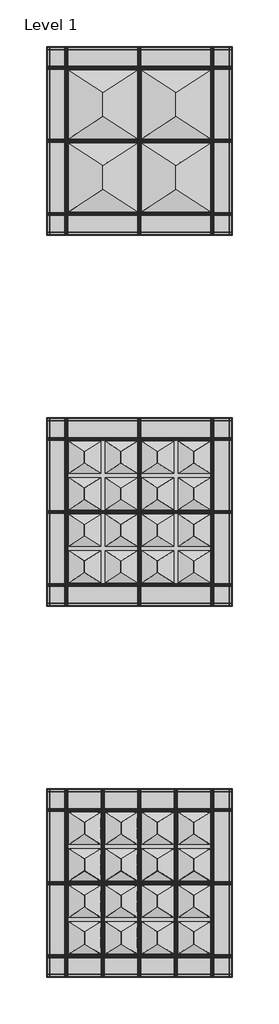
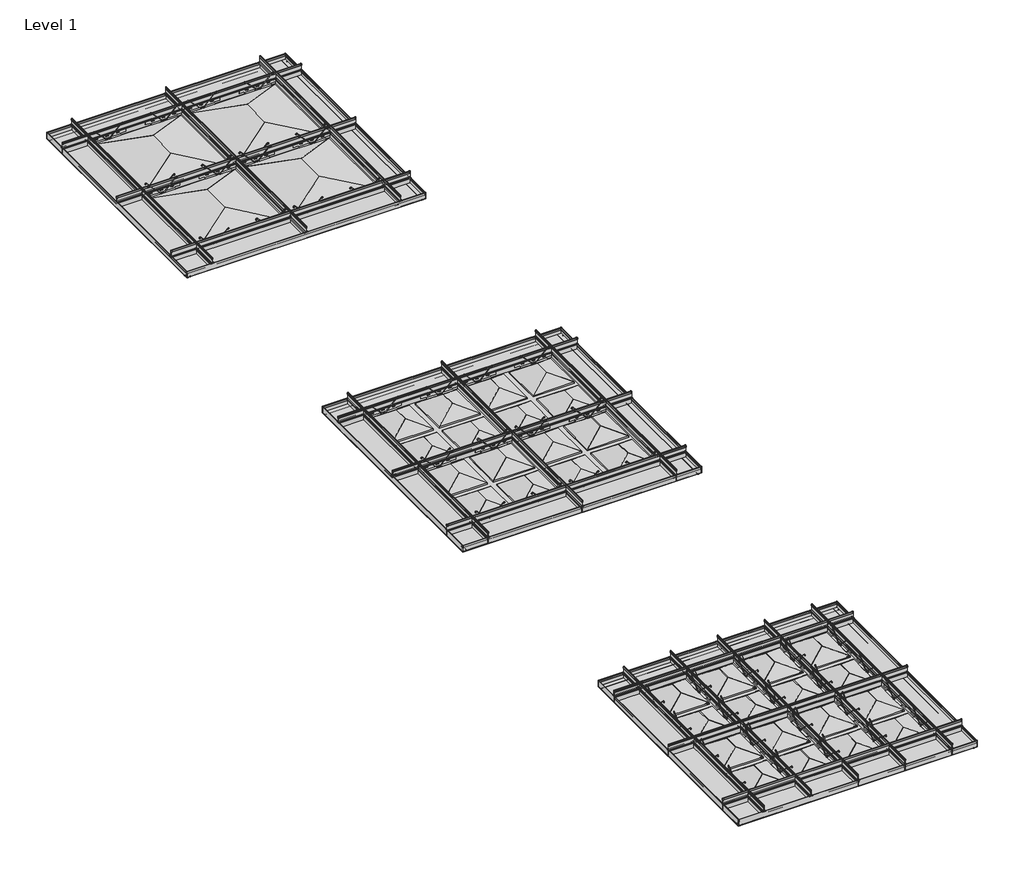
# One storey: 67 proxies.
"""IFC4 building model written with IfcOpenShell, lengths in millimetres."""

from ifc_helpers import new_model, si_unit, origin, place, context, project, spatial, transform, mapped, element, save
from components import generic_models_4999bb29, generic_models_585501e3, generic_models_e0519596, generic_models_602b7332, generic_models_4451431b, generic_models_0849f277, generic_models_cb427188, generic_models_713ed56a, generic_models_51035367, generic_models_b4303d49

model = new_model("IFC4")

# Units and contexts
model_context = context("Model", 3, world=origin())
ifc_project = project(units=[si_unit("LENGTHUNIT", "METRE", prefix="MILLI")], contexts=[model_context])

# Site, building, storey
site = spatial("IfcSite", under=ifc_project)
building = spatial("IfcBuilding", under=site)
storey = spatial("IfcBuildingStorey", under=building, Name="Level 1", Elevation=0.0)

# Proxies
placement = place(None, origin())
generic_models_shape = generic_models_4999bb29(model_context)
generic_models_2_shape = generic_models_585501e3(model_context)
generic_models_3_shape = generic_models_e0519596(model_context)
element("IfcBuildingElementProxy", 1, Name="Maxxit_Piramid-Ceiling_rev-01 : Maxxit_Piramid-Ceiling_Quad", ObjectType="Maxxit_Piramid-Ceiling_rev-01 : Maxxit_Piramid-Ceiling_Quad", at=placement, inside=storey, context=model_context, shape_type="MappedRepresentation", body=[
    mapped(generic_models_shape, transform((1882.0066774, 2988.8980581, 0.0), x_axis=(1.0, 0.0, 0.0), y_axis=(0.0, 1.0, 0.0), z_axis=(0.0, 0.0, 1.0))),
    mapped(generic_models_2_shape, transform((1882.0066774, 2988.8980581, 0.0), x_axis=(1.0, 0.0, 0.0), y_axis=(0.0, 1.0, 0.0), z_axis=(0.0, 0.0, 1.0))),
    mapped(generic_models_3_shape, transform((1882.0066774, 2988.8980581, 0.0), x_axis=(1.0, 0.0, 0.0), y_axis=(0.0, 1.0, 0.0), z_axis=(0.0, 0.0, 1.0))),
])
generic_models_4_shape = generic_models_602b7332(model_context)
generic_models_5_shape = generic_models_4451431b(model_context)
generic_models_6_shape = generic_models_0849f277(model_context)
element("IfcBuildingElementProxy", 2, Name="Maxxit_Piramid-Ceiling_rev-01 : Maxxit_Piramid-Ceiling_Duo", ObjectType="Maxxit_Piramid-Ceiling_rev-01 : Maxxit_Piramid-Ceiling_Duo", at=placement, inside=storey, context=model_context, shape_type="MappedRepresentation", body=[
    mapped(generic_models_4_shape, transform((1882.0066774, -108.3144419, 0.0), x_axis=(1.0, 0.0, 0.0), y_axis=(0.0, 1.0, 0.0), z_axis=(0.0, 0.0, 1.0))),
    mapped(generic_models_5_shape, transform((1882.0066774, -108.3144419, 0.0), x_axis=(1.0, 0.0, 0.0), y_axis=(0.0, 1.0, 0.0), z_axis=(0.0, 0.0, 1.0))),
    mapped(generic_models_6_shape, transform((1882.0066774, -108.3144419, 0.0), x_axis=(1.0, 0.0, 0.0), y_axis=(0.0, 1.0, 0.0), z_axis=(0.0, 0.0, 1.0))),
])
generic_models_7_shape = generic_models_cb427188(model_context)
generic_models_8_shape = generic_models_713ed56a(model_context)
element("IfcBuildingElementProxy", 3, Name="Maxxit_Piramid-Ceiling_rev-01 : Maxxit_Piramid-Ceiling_Solo", ObjectType="Maxxit_Piramid-Ceiling_rev-01 : Maxxit_Piramid-Ceiling_Solo", at=placement, inside=storey, context=model_context, shape_type="MappedRepresentation", body=[
    mapped(generic_models_7_shape, transform((1882.0066774, 6086.1105581, 0.0), x_axis=(1.0, 0.0, 0.0), y_axis=(0.0, 1.0, 0.0), z_axis=(0.0, 0.0, 1.0))),
    mapped(generic_models_8_shape, transform((1882.0066774, 6086.1105581, 0.0), x_axis=(1.0, 0.0, 0.0), y_axis=(0.0, 1.0, 0.0), z_axis=(0.0, 0.0, 1.0))),
])
generic_models_9_shape = generic_models_51035367(model_context)
element("IfcBuildingElementProxy", 4, Name="Agilis Panel Springs_Installed : Agilis Panel Springs_Installed", ObjectType="Agilis Panel Springs_Installed : Agilis Panel Springs_Installed", at=placement, inside=storey, context=model_context, shape_type="MappedRepresentation", body=[
    mapped(generic_models_9_shape, transform((2169.4879274, 7467.9855581, -3.0875), x_axis=(-1.0, 0.0, 0.0), y_axis=(0.0, -1.0, 0.0), z_axis=(0.0, 0.0, 1.0))),
])
element("IfcBuildingElementProxy", 5, Name="Agilis Panel Springs_Installed : Agilis Panel Springs_Installed", ObjectType="Agilis Panel Springs_Installed : Agilis Panel Springs_Installed", at=placement, inside=storey, context=model_context, shape_type="MappedRepresentation", body=[
    mapped(generic_models_9_shape, transform((2534.8379274, 6886.535565, -3.0875), x_axis=(1.0, 0.0, 0.0), y_axis=(0.0, 1.0, 0.0), z_axis=(0.0, 0.0, 1.0))),
])
element("IfcBuildingElementProxy", 6, Name="Agilis Panel Springs_Installed : Agilis Panel Springs_Installed", ObjectType="Agilis Panel Springs_Installed : Agilis Panel Springs_Installed", at=placement, inside=storey, context=model_context, shape_type="MappedRepresentation", body=[
    mapped(generic_models_9_shape, transform((2779.0879274, 7467.9855581, -3.0875), x_axis=(-1.0, 0.0, 0.0), y_axis=(0.0, -1.0, 0.0), z_axis=(0.0, 0.0, 1.0))),
])
element("IfcBuildingElementProxy", 7, Name="Agilis Panel Springs_Installed : Agilis Panel Springs_Installed", ObjectType="Agilis Panel Springs_Installed : Agilis Panel Springs_Installed", at=placement, inside=storey, context=model_context, shape_type="MappedRepresentation", body=[
    mapped(generic_models_9_shape, transform((3144.4379274, 6886.535565, -3.0875), x_axis=(1.0, 0.0, 0.0), y_axis=(0.0, 1.0, 0.0), z_axis=(0.0, 0.0, 1.0))),
])
element("IfcBuildingElementProxy", 8, Name="Agilis Panel Springs_Installed : Agilis Panel Springs_Installed", ObjectType="Agilis Panel Springs_Installed : Agilis Panel Springs_Installed", at=placement, inside=storey, context=model_context, shape_type="MappedRepresentation", body=[
    mapped(generic_models_9_shape, transform((2534.8379274, 6276.935565, -3.0875), x_axis=(1.0, 0.0, 0.0), y_axis=(0.0, 1.0, 0.0), z_axis=(0.0, 0.0, 1.0))),
])
element("IfcBuildingElementProxy", 9, Name="Agilis Panel Springs_Installed : Agilis Panel Springs_Installed", ObjectType="Agilis Panel Springs_Installed : Agilis Panel Springs_Installed", at=placement, inside=storey, context=model_context, shape_type="MappedRepresentation", body=[
    mapped(generic_models_9_shape, transform((2169.4879274, 6858.3855581, -3.0875), x_axis=(-1.0, 0.0, 0.0), y_axis=(0.0, -1.0, 0.0), z_axis=(0.0, 0.0, 1.0))),
])
element("IfcBuildingElementProxy", 10, Name="Agilis Panel Springs_Installed : Agilis Panel Springs_Installed", ObjectType="Agilis Panel Springs_Installed : Agilis Panel Springs_Installed", at=placement, inside=storey, context=model_context, shape_type="MappedRepresentation", body=[
    mapped(generic_models_9_shape, transform((3144.4379274, 6276.935565, -3.0875), x_axis=(1.0, 0.0, 0.0), y_axis=(0.0, 1.0, 0.0), z_axis=(0.0, 0.0, 1.0))),
])
element("IfcBuildingElementProxy", 11, Name="Agilis Panel Springs_Installed : Agilis Panel Springs_Installed", ObjectType="Agilis Panel Springs_Installed : Agilis Panel Springs_Installed", at=placement, inside=storey, context=model_context, shape_type="MappedRepresentation", body=[
    mapped(generic_models_9_shape, transform((2779.0879274, 6858.3855581, -3.0875), x_axis=(-1.0, 0.0, 0.0), y_axis=(0.0, -1.0, 0.0), z_axis=(0.0, 0.0, 1.0))),
])
element("IfcBuildingElementProxy", 12, Name="Agilis Panel Springs_Installed : Agilis Panel Springs_Installed", ObjectType="Agilis Panel Springs_Installed : Agilis Panel Springs_Installed", at=placement, inside=storey, context=model_context, shape_type="MappedRepresentation", body=[
    mapped(generic_models_9_shape, transform((2169.4879274, 4371.2855352, -3.0875), x_axis=(-1.0, 0.0, 0.0), y_axis=(0.0, -1.0, 0.0), z_axis=(0.0, 0.0, 1.0))),
])
element("IfcBuildingElementProxy", 13, Name="Agilis Panel Springs_Installed : Agilis Panel Springs_Installed", ObjectType="Agilis Panel Springs_Installed : Agilis Panel Springs_Installed", at=placement, inside=storey, context=model_context, shape_type="MappedRepresentation", body=[
    mapped(generic_models_9_shape, transform((2534.8379274, 3789.3025479, -3.0875), x_axis=(1.0, 0.0, 0.0), y_axis=(0.0, 1.0, 0.0), z_axis=(0.0, 0.0, 1.0))),
])
element("IfcBuildingElementProxy", 14, Name="Agilis Panel Springs_Installed : Agilis Panel Springs_Installed", ObjectType="Agilis Panel Springs_Installed : Agilis Panel Springs_Installed", at=placement, inside=storey, context=model_context, shape_type="MappedRepresentation", body=[
    mapped(generic_models_9_shape, transform((2779.0879274, 4371.2855352, -3.0875), x_axis=(-1.0, 0.0, 0.0), y_axis=(0.0, -1.0, 0.0), z_axis=(0.0, 0.0, 1.0))),
])
element("IfcBuildingElementProxy", 15, Name="Agilis Panel Springs_Installed : Agilis Panel Springs_Installed", ObjectType="Agilis Panel Springs_Installed : Agilis Panel Springs_Installed", at=placement, inside=storey, context=model_context, shape_type="MappedRepresentation", body=[
    mapped(generic_models_9_shape, transform((3144.4379274, 3789.3025479, -3.0875), x_axis=(1.0, 0.0, 0.0), y_axis=(0.0, 1.0, 0.0), z_axis=(0.0, 0.0, 1.0))),
])
element("IfcBuildingElementProxy", 16, Name="Agilis Panel Springs_Installed : Agilis Panel Springs_Installed", ObjectType="Agilis Panel Springs_Installed : Agilis Panel Springs_Installed", at=placement, inside=storey, context=model_context, shape_type="MappedRepresentation", body=[
    mapped(generic_models_9_shape, transform((2169.4879274, 3761.6855352, -3.0875), x_axis=(-1.0, 0.0, 0.0), y_axis=(0.0, -1.0, 0.0), z_axis=(0.0, 0.0, 1.0))),
])
element("IfcBuildingElementProxy", 17, Name="Agilis Panel Springs_Installed : Agilis Panel Springs_Installed", ObjectType="Agilis Panel Springs_Installed : Agilis Panel Springs_Installed", at=placement, inside=storey, context=model_context, shape_type="MappedRepresentation", body=[
    mapped(generic_models_9_shape, transform((2534.8379274, 3179.7025479, -3.0875), x_axis=(1.0, 0.0, 0.0), y_axis=(0.0, 1.0, 0.0), z_axis=(0.0, 0.0, 1.0))),
])
element("IfcBuildingElementProxy", 18, Name="Agilis Panel Springs_Installed : Agilis Panel Springs_Installed", ObjectType="Agilis Panel Springs_Installed : Agilis Panel Springs_Installed", at=placement, inside=storey, context=model_context, shape_type="MappedRepresentation", body=[
    mapped(generic_models_9_shape, transform((2779.0879274, 3761.6855352, -3.0875), x_axis=(-1.0, 0.0, 0.0), y_axis=(0.0, -1.0, 0.0), z_axis=(0.0, 0.0, 1.0))),
])
element("IfcBuildingElementProxy", 19, Name="Agilis Panel Springs_Installed : Agilis Panel Springs_Installed", ObjectType="Agilis Panel Springs_Installed : Agilis Panel Springs_Installed", at=placement, inside=storey, context=model_context, shape_type="MappedRepresentation", body=[
    mapped(generic_models_9_shape, transform((3144.4379274, 3179.7025479, -3.0875), x_axis=(1.0, 0.0, 0.0), y_axis=(0.0, 1.0, 0.0), z_axis=(0.0, 0.0, 1.0))),
])
element("IfcBuildingElementProxy", 20, Name="Agilis Panel Springs_Installed : Agilis Panel Springs_Installed", ObjectType="Agilis Panel Springs_Installed : Agilis Panel Springs_Installed", at=placement, inside=storey, context=model_context, shape_type="MappedRepresentation", body=[
    mapped(generic_models_9_shape, transform((2338.0223054, 1134.6980718, -3.0875), x_axis=(0.0, 1.0, 0.0), y_axis=(-1.0, 0.0, 0.0), z_axis=(0.0, 0.0, 1.0))),
])
element("IfcBuildingElementProxy", 21, Name="Agilis Panel Springs_Installed : Agilis Panel Springs_Installed", ObjectType="Agilis Panel Springs_Installed : Agilis Panel Springs_Installed", at=placement, inside=storey, context=model_context, shape_type="MappedRepresentation", body=[
    mapped(generic_models_9_shape, transform((2338.0223054, 831.5183045, -3.0875), x_axis=(0.0, 1.0, 0.0), y_axis=(-1.0, 0.0, 0.0), z_axis=(0.0, 0.0, 1.0))),
])
element("IfcBuildingElementProxy", 22, Name="Agilis Panel Springs_Installed : Agilis Panel Springs_Installed", ObjectType="Agilis Panel Springs_Installed : Agilis Panel Springs_Installed", at=placement, inside=storey, context=model_context, shape_type="MappedRepresentation", body=[
    mapped(generic_models_9_shape, transform((2642.8223054, 1134.6980718, -3.0875), x_axis=(0.0, 1.0, 0.0), y_axis=(-1.0, 0.0, 0.0), z_axis=(0.0, 0.0, 1.0))),
])
element("IfcBuildingElementProxy", 23, Name="Agilis Panel Springs_Installed : Agilis Panel Springs_Installed", ObjectType="Agilis Panel Springs_Installed : Agilis Panel Springs_Installed", at=placement, inside=storey, context=model_context, shape_type="MappedRepresentation", body=[
    mapped(generic_models_9_shape, transform((2642.8223054, 831.5183045, -3.0875), x_axis=(0.0, 1.0, 0.0), y_axis=(-1.0, 0.0, 0.0), z_axis=(0.0, 0.0, 1.0))),
])
element("IfcBuildingElementProxy", 24, Name="Agilis Panel Springs_Installed : Agilis Panel Springs_Installed", ObjectType="Agilis Panel Springs_Installed : Agilis Panel Springs_Installed", at=placement, inside=storey, context=model_context, shape_type="MappedRepresentation", body=[
    mapped(generic_models_9_shape, transform((2947.6223054, 1134.6980718, -3.0875), x_axis=(0.0, 1.0, 0.0), y_axis=(-1.0, 0.0, 0.0), z_axis=(0.0, 0.0, 1.0))),
])
element("IfcBuildingElementProxy", 25, Name="Agilis Panel Springs_Installed : Agilis Panel Springs_Installed", ObjectType="Agilis Panel Springs_Installed : Agilis Panel Springs_Installed", at=placement, inside=storey, context=model_context, shape_type="MappedRepresentation", body=[
    mapped(generic_models_9_shape, transform((2947.6223054, 831.5183045, -3.0875), x_axis=(0.0, 1.0, 0.0), y_axis=(-1.0, 0.0, 0.0), z_axis=(0.0, 0.0, 1.0))),
])
element("IfcBuildingElementProxy", 26, Name="Agilis Panel Springs_Installed : Agilis Panel Springs_Installed", ObjectType="Agilis Panel Springs_Installed : Agilis Panel Springs_Installed", at=placement, inside=storey, context=model_context, shape_type="MappedRepresentation", body=[
    mapped(generic_models_9_shape, transform((3252.4223054, 1134.6980718, -3.0875), x_axis=(0.0, 1.0, 0.0), y_axis=(-1.0, 0.0, 0.0), z_axis=(0.0, 0.0, 1.0))),
])
element("IfcBuildingElementProxy", 27, Name="Agilis Panel Springs_Installed : Agilis Panel Springs_Installed", ObjectType="Agilis Panel Springs_Installed : Agilis Panel Springs_Installed", at=placement, inside=storey, context=model_context, shape_type="MappedRepresentation", body=[
    mapped(generic_models_9_shape, transform((3252.4223054, 831.5183045, -3.0875), x_axis=(0.0, 1.0, 0.0), y_axis=(-1.0, 0.0, 0.0), z_axis=(0.0, 0.0, 1.0))),
])
element("IfcBuildingElementProxy", 28, Name="Agilis Panel Springs_Installed : Agilis Panel Springs_Installed", ObjectType="Agilis Panel Springs_Installed : Agilis Panel Springs_Installed", at=placement, inside=storey, context=model_context, shape_type="MappedRepresentation", body=[
    mapped(generic_models_9_shape, transform((3252.4223054, 525.1308319, -3.0875), x_axis=(0.0, 1.0, 0.0), y_axis=(-1.0, 0.0, 0.0), z_axis=(0.0, 0.0, 1.0))),
])
element("IfcBuildingElementProxy", 29, Name="Agilis Panel Springs_Installed : Agilis Panel Springs_Installed", ObjectType="Agilis Panel Springs_Installed : Agilis Panel Springs_Installed", at=placement, inside=storey, context=model_context, shape_type="MappedRepresentation", body=[
    mapped(generic_models_9_shape, transform((3252.4223054, 221.9510645, -3.0875), x_axis=(0.0, 1.0, 0.0), y_axis=(-1.0, 0.0, 0.0), z_axis=(0.0, 0.0, 1.0))),
])
element("IfcBuildingElementProxy", 30, Name="Agilis Panel Springs_Installed : Agilis Panel Springs_Installed", ObjectType="Agilis Panel Springs_Installed : Agilis Panel Springs_Installed", at=placement, inside=storey, context=model_context, shape_type="MappedRepresentation", body=[
    mapped(generic_models_9_shape, transform((2947.6223054, 525.1308319, -3.0875), x_axis=(0.0, 1.0, 0.0), y_axis=(-1.0, 0.0, 0.0), z_axis=(0.0, 0.0, 1.0))),
])
element("IfcBuildingElementProxy", 31, Name="Agilis Panel Springs_Installed : Agilis Panel Springs_Installed", ObjectType="Agilis Panel Springs_Installed : Agilis Panel Springs_Installed", at=placement, inside=storey, context=model_context, shape_type="MappedRepresentation", body=[
    mapped(generic_models_9_shape, transform((2947.6223054, 221.9510645, -3.0875), x_axis=(0.0, 1.0, 0.0), y_axis=(-1.0, 0.0, 0.0), z_axis=(0.0, 0.0, 1.0))),
])
element("IfcBuildingElementProxy", 32, Name="Agilis Panel Springs_Installed : Agilis Panel Springs_Installed", ObjectType="Agilis Panel Springs_Installed : Agilis Panel Springs_Installed", at=placement, inside=storey, context=model_context, shape_type="MappedRepresentation", body=[
    mapped(generic_models_9_shape, transform((2642.8223054, 525.1308319, -3.0875), x_axis=(0.0, 1.0, 0.0), y_axis=(-1.0, 0.0, 0.0), z_axis=(0.0, 0.0, 1.0))),
])
element("IfcBuildingElementProxy", 33, Name="Agilis Panel Springs_Installed : Agilis Panel Springs_Installed", ObjectType="Agilis Panel Springs_Installed : Agilis Panel Springs_Installed", at=placement, inside=storey, context=model_context, shape_type="MappedRepresentation", body=[
    mapped(generic_models_9_shape, transform((2642.8223054, 221.9510645, -3.0875), x_axis=(0.0, 1.0, 0.0), y_axis=(-1.0, 0.0, 0.0), z_axis=(0.0, 0.0, 1.0))),
])
element("IfcBuildingElementProxy", 34, Name="Agilis Panel Springs_Installed : Agilis Panel Springs_Installed", ObjectType="Agilis Panel Springs_Installed : Agilis Panel Springs_Installed", at=placement, inside=storey, context=model_context, shape_type="MappedRepresentation", body=[
    mapped(generic_models_9_shape, transform((2338.0223054, 525.1308319, -3.0875), x_axis=(0.0, 1.0, 0.0), y_axis=(-1.0, 0.0, 0.0), z_axis=(0.0, 0.0, 1.0))),
])
element("IfcBuildingElementProxy", 35, Name="Agilis Panel Springs_Installed : Agilis Panel Springs_Installed", ObjectType="Agilis Panel Springs_Installed : Agilis Panel Springs_Installed", at=placement, inside=storey, context=model_context, shape_type="MappedRepresentation", body=[
    mapped(generic_models_9_shape, transform((2338.0223054, 221.9510645, -3.0875), x_axis=(0.0, 1.0, 0.0), y_axis=(-1.0, 0.0, 0.0), z_axis=(0.0, 0.0, 1.0))),
])
generic_models_10_shape = generic_models_b4303d49(model_context)
element("IfcBuildingElementProxy", 36, Name="Agilis Panel Springs_Installed : Agilis Panel Springs_Installed", ObjectType="Agilis Panel Springs_Installed : Agilis Panel Springs_Installed", at=placement, inside=storey, context=model_context, shape_type="MappedRepresentation", body=[
    mapped(generic_models_10_shape, transform((2534.8379274, 7467.9855581, -3.0875), x_axis=(1.0, 0.0, 0.0), y_axis=(0.0, 1.0, 0.0), z_axis=(0.0, 0.0, 1.0))),
])
element("IfcBuildingElementProxy", 37, Name="Agilis Panel Springs_Installed : Agilis Panel Springs_Installed", ObjectType="Agilis Panel Springs_Installed : Agilis Panel Springs_Installed", at=placement, inside=storey, context=model_context, shape_type="MappedRepresentation", body=[
    mapped(generic_models_10_shape, transform((2169.4879274, 6886.535565, -3.0875), x_axis=(-1.0, 0.0, 0.0), y_axis=(0.0, -1.0, 0.0), z_axis=(0.0, 0.0, 1.0))),
])
element("IfcBuildingElementProxy", 38, Name="Agilis Panel Springs_Installed : Agilis Panel Springs_Installed", ObjectType="Agilis Panel Springs_Installed : Agilis Panel Springs_Installed", at=placement, inside=storey, context=model_context, shape_type="MappedRepresentation", body=[
    mapped(generic_models_10_shape, transform((3144.4379274, 7467.9855581, -3.0875), x_axis=(1.0, 0.0, 0.0), y_axis=(0.0, 1.0, 0.0), z_axis=(0.0, 0.0, 1.0))),
])
element("IfcBuildingElementProxy", 39, Name="Agilis Panel Springs_Installed : Agilis Panel Springs_Installed", ObjectType="Agilis Panel Springs_Installed : Agilis Panel Springs_Installed", at=placement, inside=storey, context=model_context, shape_type="MappedRepresentation", body=[
    mapped(generic_models_10_shape, transform((2779.0879274, 6886.535565, -3.0875), x_axis=(-1.0, 0.0, 0.0), y_axis=(0.0, -1.0, 0.0), z_axis=(0.0, 0.0, 1.0))),
])
element("IfcBuildingElementProxy", 40, Name="Agilis Panel Springs_Installed : Agilis Panel Springs_Installed", ObjectType="Agilis Panel Springs_Installed : Agilis Panel Springs_Installed", at=placement, inside=storey, context=model_context, shape_type="MappedRepresentation", body=[
    mapped(generic_models_10_shape, transform((2169.4879274, 6276.935565, -3.0875), x_axis=(-1.0, 0.0, 0.0), y_axis=(0.0, -1.0, 0.0), z_axis=(0.0, 0.0, 1.0))),
])
element("IfcBuildingElementProxy", 41, Name="Agilis Panel Springs_Installed : Agilis Panel Springs_Installed", ObjectType="Agilis Panel Springs_Installed : Agilis Panel Springs_Installed", at=placement, inside=storey, context=model_context, shape_type="MappedRepresentation", body=[
    mapped(generic_models_10_shape, transform((2534.8379274, 6858.3855581, -3.0875), x_axis=(1.0, 0.0, 0.0), y_axis=(0.0, 1.0, 0.0), z_axis=(0.0, 0.0, 1.0))),
])
element("IfcBuildingElementProxy", 42, Name="Agilis Panel Springs_Installed : Agilis Panel Springs_Installed", ObjectType="Agilis Panel Springs_Installed : Agilis Panel Springs_Installed", at=placement, inside=storey, context=model_context, shape_type="MappedRepresentation", body=[
    mapped(generic_models_10_shape, transform((2779.0879274, 6276.935565, -3.0875), x_axis=(-1.0, 0.0, 0.0), y_axis=(0.0, -1.0, 0.0), z_axis=(0.0, 0.0, 1.0))),
])
element("IfcBuildingElementProxy", 43, Name="Agilis Panel Springs_Installed : Agilis Panel Springs_Installed", ObjectType="Agilis Panel Springs_Installed : Agilis Panel Springs_Installed", at=placement, inside=storey, context=model_context, shape_type="MappedRepresentation", body=[
    mapped(generic_models_10_shape, transform((3144.4379274, 6858.3855581, -3.0875), x_axis=(1.0, 0.0, 0.0), y_axis=(0.0, 1.0, 0.0), z_axis=(0.0, 0.0, 1.0))),
])
element("IfcBuildingElementProxy", 44, Name="Agilis Panel Springs_Installed : Agilis Panel Springs_Installed", ObjectType="Agilis Panel Springs_Installed : Agilis Panel Springs_Installed", at=placement, inside=storey, context=model_context, shape_type="MappedRepresentation", body=[
    mapped(generic_models_10_shape, transform((2534.8379274, 4371.2855352, -3.0875), x_axis=(1.0, 0.0, 0.0), y_axis=(0.0, 1.0, 0.0), z_axis=(0.0, 0.0, 1.0))),
])
element("IfcBuildingElementProxy", 45, Name="Agilis Panel Springs_Installed : Agilis Panel Springs_Installed", ObjectType="Agilis Panel Springs_Installed : Agilis Panel Springs_Installed", at=placement, inside=storey, context=model_context, shape_type="MappedRepresentation", body=[
    mapped(generic_models_10_shape, transform((2169.4879274, 3789.3025479, -3.0875), x_axis=(-1.0, 0.0, 0.0), y_axis=(0.0, -1.0, 0.0), z_axis=(0.0, 0.0, 1.0))),
])
element("IfcBuildingElementProxy", 46, Name="Agilis Panel Springs_Installed : Agilis Panel Springs_Installed", ObjectType="Agilis Panel Springs_Installed : Agilis Panel Springs_Installed", at=placement, inside=storey, context=model_context, shape_type="MappedRepresentation", body=[
    mapped(generic_models_10_shape, transform((3144.4379274, 4371.2855352, -3.0875), x_axis=(1.0, 0.0, 0.0), y_axis=(0.0, 1.0, 0.0), z_axis=(0.0, 0.0, 1.0))),
])
element("IfcBuildingElementProxy", 47, Name="Agilis Panel Springs_Installed : Agilis Panel Springs_Installed", ObjectType="Agilis Panel Springs_Installed : Agilis Panel Springs_Installed", at=placement, inside=storey, context=model_context, shape_type="MappedRepresentation", body=[
    mapped(generic_models_10_shape, transform((2779.0879274, 3789.3025479, -3.0875), x_axis=(-1.0, 0.0, 0.0), y_axis=(0.0, -1.0, 0.0), z_axis=(0.0, 0.0, 1.0))),
])
element("IfcBuildingElementProxy", 48, Name="Agilis Panel Springs_Installed : Agilis Panel Springs_Installed", ObjectType="Agilis Panel Springs_Installed : Agilis Panel Springs_Installed", at=placement, inside=storey, context=model_context, shape_type="MappedRepresentation", body=[
    mapped(generic_models_10_shape, transform((2534.8379274, 3761.6855352, -3.0875), x_axis=(1.0, 0.0, 0.0), y_axis=(0.0, 1.0, 0.0), z_axis=(0.0, 0.0, 1.0))),
])
element("IfcBuildingElementProxy", 49, Name="Agilis Panel Springs_Installed : Agilis Panel Springs_Installed", ObjectType="Agilis Panel Springs_Installed : Agilis Panel Springs_Installed", at=placement, inside=storey, context=model_context, shape_type="MappedRepresentation", body=[
    mapped(generic_models_10_shape, transform((2169.4879274, 3179.7025479, -3.0875), x_axis=(-1.0, 0.0, 0.0), y_axis=(0.0, -1.0, 0.0), z_axis=(0.0, 0.0, 1.0))),
])
element("IfcBuildingElementProxy", 50, Name="Agilis Panel Springs_Installed : Agilis Panel Springs_Installed", ObjectType="Agilis Panel Springs_Installed : Agilis Panel Springs_Installed", at=placement, inside=storey, context=model_context, shape_type="MappedRepresentation", body=[
    mapped(generic_models_10_shape, transform((3144.4379274, 3761.6855352, -3.0875), x_axis=(1.0, 0.0, 0.0), y_axis=(0.0, 1.0, 0.0), z_axis=(0.0, 0.0, 1.0))),
])
element("IfcBuildingElementProxy", 51, Name="Agilis Panel Springs_Installed : Agilis Panel Springs_Installed", ObjectType="Agilis Panel Springs_Installed : Agilis Panel Springs_Installed", at=placement, inside=storey, context=model_context, shape_type="MappedRepresentation", body=[
    mapped(generic_models_10_shape, transform((2779.0879274, 3179.7025479, -3.0875), x_axis=(-1.0, 0.0, 0.0), y_axis=(0.0, -1.0, 0.0), z_axis=(0.0, 0.0, 1.0))),
])
element("IfcBuildingElementProxy", 52, Name="Agilis Panel Springs_Installed : Agilis Panel Springs_Installed", ObjectType="Agilis Panel Springs_Installed : Agilis Panel Springs_Installed", at=placement, inside=storey, context=model_context, shape_type="MappedRepresentation", body=[
    mapped(generic_models_10_shape, transform((2061.5035524, 1134.6980718, -3.0875), x_axis=(0.0, 1.0, 0.0), y_axis=(-1.0, 0.0, 0.0), z_axis=(0.0, 0.0, 1.0))),
])
element("IfcBuildingElementProxy", 53, Name="Agilis Panel Springs_Installed : Agilis Panel Springs_Installed", ObjectType="Agilis Panel Springs_Installed : Agilis Panel Springs_Installed", at=placement, inside=storey, context=model_context, shape_type="MappedRepresentation", body=[
    mapped(generic_models_10_shape, transform((2061.5035524, 831.5183045, -3.0875), x_axis=(0.0, 1.0, 0.0), y_axis=(-1.0, 0.0, 0.0), z_axis=(0.0, 0.0, 1.0))),
])
element("IfcBuildingElementProxy", 54, Name="Agilis Panel Springs_Installed : Agilis Panel Springs_Installed", ObjectType="Agilis Panel Springs_Installed : Agilis Panel Springs_Installed", at=placement, inside=storey, context=model_context, shape_type="MappedRepresentation", body=[
    mapped(generic_models_10_shape, transform((2366.3035524, 1134.6980718, -3.0875), x_axis=(0.0, 1.0, 0.0), y_axis=(-1.0, 0.0, 0.0), z_axis=(0.0, 0.0, 1.0))),
])
element("IfcBuildingElementProxy", 55, Name="Agilis Panel Springs_Installed : Agilis Panel Springs_Installed", ObjectType="Agilis Panel Springs_Installed : Agilis Panel Springs_Installed", at=placement, inside=storey, context=model_context, shape_type="MappedRepresentation", body=[
    mapped(generic_models_10_shape, transform((2366.3035524, 831.5183045, -3.0875), x_axis=(0.0, 1.0, 0.0), y_axis=(-1.0, 0.0, 0.0), z_axis=(0.0, 0.0, 1.0))),
])
element("IfcBuildingElementProxy", 56, Name="Agilis Panel Springs_Installed : Agilis Panel Springs_Installed", ObjectType="Agilis Panel Springs_Installed : Agilis Panel Springs_Installed", at=placement, inside=storey, context=model_context, shape_type="MappedRepresentation", body=[
    mapped(generic_models_10_shape, transform((2671.1035524, 1134.6980718, -3.0875), x_axis=(0.0, 1.0, 0.0), y_axis=(-1.0, 0.0, 0.0), z_axis=(0.0, 0.0, 1.0))),
])
element("IfcBuildingElementProxy", 57, Name="Agilis Panel Springs_Installed : Agilis Panel Springs_Installed", ObjectType="Agilis Panel Springs_Installed : Agilis Panel Springs_Installed", at=placement, inside=storey, context=model_context, shape_type="MappedRepresentation", body=[
    mapped(generic_models_10_shape, transform((2671.1035524, 831.5183045, -3.0875), x_axis=(0.0, 1.0, 0.0), y_axis=(-1.0, 0.0, 0.0), z_axis=(0.0, 0.0, 1.0))),
])
element("IfcBuildingElementProxy", 58, Name="Agilis Panel Springs_Installed : Agilis Panel Springs_Installed", ObjectType="Agilis Panel Springs_Installed : Agilis Panel Springs_Installed", at=placement, inside=storey, context=model_context, shape_type="MappedRepresentation", body=[
    mapped(generic_models_10_shape, transform((2975.9035524, 1134.6980718, -3.0875), x_axis=(0.0, 1.0, 0.0), y_axis=(-1.0, 0.0, 0.0), z_axis=(0.0, 0.0, 1.0))),
])
element("IfcBuildingElementProxy", 59, Name="Agilis Panel Springs_Installed : Agilis Panel Springs_Installed", ObjectType="Agilis Panel Springs_Installed : Agilis Panel Springs_Installed", at=placement, inside=storey, context=model_context, shape_type="MappedRepresentation", body=[
    mapped(generic_models_10_shape, transform((2975.9035524, 831.5183045, -3.0875), x_axis=(0.0, 1.0, 0.0), y_axis=(-1.0, 0.0, 0.0), z_axis=(0.0, 0.0, 1.0))),
])
element("IfcBuildingElementProxy", 60, Name="Agilis Panel Springs_Installed : Agilis Panel Springs_Installed", ObjectType="Agilis Panel Springs_Installed : Agilis Panel Springs_Installed", at=placement, inside=storey, context=model_context, shape_type="MappedRepresentation", body=[
    mapped(generic_models_10_shape, transform((2975.9035524, 525.1308319, -3.0875), x_axis=(0.0, 1.0, 0.0), y_axis=(-1.0, 0.0, 0.0), z_axis=(0.0, 0.0, 1.0))),
])
element("IfcBuildingElementProxy", 61, Name="Agilis Panel Springs_Installed : Agilis Panel Springs_Installed", ObjectType="Agilis Panel Springs_Installed : Agilis Panel Springs_Installed", at=placement, inside=storey, context=model_context, shape_type="MappedRepresentation", body=[
    mapped(generic_models_10_shape, transform((2975.9035524, 221.9510645, -3.0875), x_axis=(0.0, 1.0, 0.0), y_axis=(-1.0, 0.0, 0.0), z_axis=(0.0, 0.0, 1.0))),
])
element("IfcBuildingElementProxy", 62, Name="Agilis Panel Springs_Installed : Agilis Panel Springs_Installed", ObjectType="Agilis Panel Springs_Installed : Agilis Panel Springs_Installed", at=placement, inside=storey, context=model_context, shape_type="MappedRepresentation", body=[
    mapped(generic_models_10_shape, transform((2671.1035524, 525.1308319, -3.0875), x_axis=(0.0, 1.0, 0.0), y_axis=(-1.0, 0.0, 0.0), z_axis=(0.0, 0.0, 1.0))),
])
element("IfcBuildingElementProxy", 63, Name="Agilis Panel Springs_Installed : Agilis Panel Springs_Installed", ObjectType="Agilis Panel Springs_Installed : Agilis Panel Springs_Installed", at=placement, inside=storey, context=model_context, shape_type="MappedRepresentation", body=[
    mapped(generic_models_10_shape, transform((2671.1035524, 221.9510645, -3.0875), x_axis=(0.0, 1.0, 0.0), y_axis=(-1.0, 0.0, 0.0), z_axis=(0.0, 0.0, 1.0))),
])
element("IfcBuildingElementProxy", 64, Name="Agilis Panel Springs_Installed : Agilis Panel Springs_Installed", ObjectType="Agilis Panel Springs_Installed : Agilis Panel Springs_Installed", at=placement, inside=storey, context=model_context, shape_type="MappedRepresentation", body=[
    mapped(generic_models_10_shape, transform((2366.3035524, 525.1308319, -3.0875), x_axis=(0.0, 1.0, 0.0), y_axis=(-1.0, 0.0, 0.0), z_axis=(0.0, 0.0, 1.0))),
])
element("IfcBuildingElementProxy", 65, Name="Agilis Panel Springs_Installed : Agilis Panel Springs_Installed", ObjectType="Agilis Panel Springs_Installed : Agilis Panel Springs_Installed", at=placement, inside=storey, context=model_context, shape_type="MappedRepresentation", body=[
    mapped(generic_models_10_shape, transform((2366.3035524, 221.9510645, -3.0875), x_axis=(0.0, 1.0, 0.0), y_axis=(-1.0, 0.0, 0.0), z_axis=(0.0, 0.0, 1.0))),
])
element("IfcBuildingElementProxy", 66, Name="Agilis Panel Springs_Installed : Agilis Panel Springs_Installed", ObjectType="Agilis Panel Springs_Installed : Agilis Panel Springs_Installed", at=placement, inside=storey, context=model_context, shape_type="MappedRepresentation", body=[
    mapped(generic_models_10_shape, transform((2061.5035524, 525.1308319, -3.0875), x_axis=(0.0, 1.0, 0.0), y_axis=(-1.0, 0.0, 0.0), z_axis=(0.0, 0.0, 1.0))),
])
element("IfcBuildingElementProxy", 67, Name="Agilis Panel Springs_Installed : Agilis Panel Springs_Installed", ObjectType="Agilis Panel Springs_Installed : Agilis Panel Springs_Installed", at=placement, inside=storey, context=model_context, shape_type="MappedRepresentation", body=[
    mapped(generic_models_10_shape, transform((2061.5035524, 221.9510645, -3.0875), x_axis=(0.0, 1.0, 0.0), y_axis=(-1.0, 0.0, 0.0), z_axis=(0.0, 0.0, 1.0))),
])

save(model, "model.ifc")
